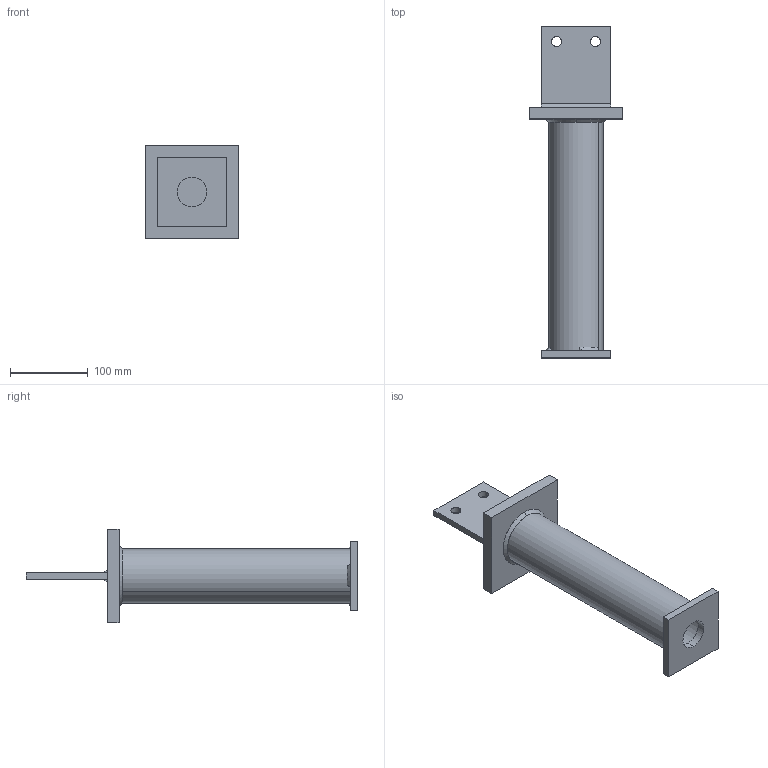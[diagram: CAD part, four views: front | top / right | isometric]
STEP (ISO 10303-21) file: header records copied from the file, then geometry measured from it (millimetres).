
FILE_DESCRIPTION (( 'STEP AP203' ), '1' );
FILE_NAME ('19810210.STEP', '2021-04-18T16:25:00', ( '' ), ( '' ), 'SwSTEP 2.0', 'SolidWorks 2013', '' );
FILE_SCHEMA (( 'CONFIG_CONTROL_DESIGN' ));
Length unit declared in the file: millimetre
Products named in the file (1): 19810210
Bounding box: 120 x 428 x 120 mm (x, y, z)
Volume: 723500.6 mm3; surface area: 206566.6 mm2
Topology: 10 solids, 10 shells, 75 faces, 163 edges, 108 vertices
Faces by surface type: plane 44, cylinder 20, bspline 6, cone 5
Entity records: 2347 total; most frequent: CARTESIAN_POINT 665, ORIENTED_EDGE 326, DIRECTION 312, EDGE_CURVE 163, AXIS2_PLACEMENT_3D 115, VERTEX_POINT 108, EDGE_LOOP 85, VECTOR 82
